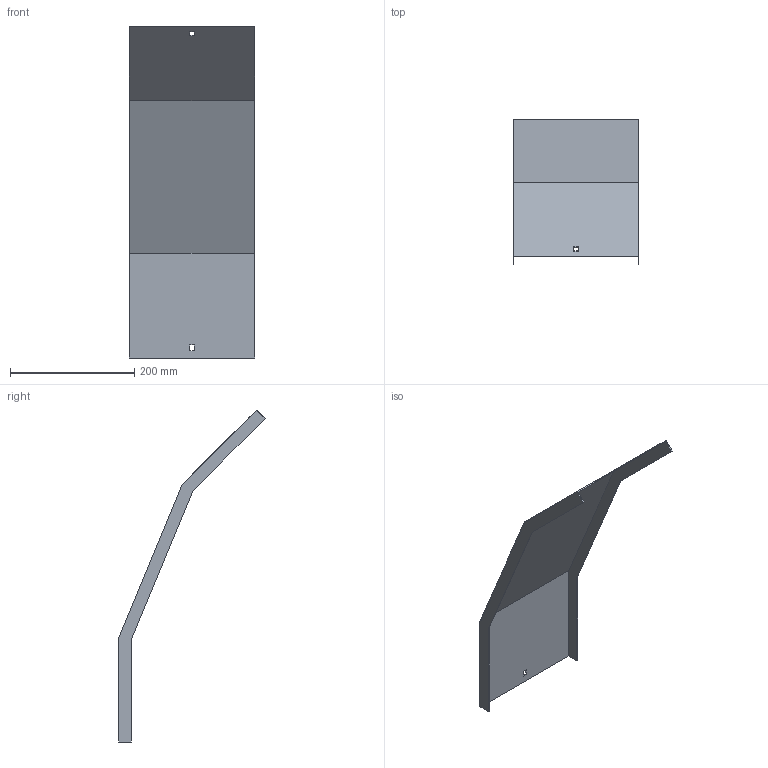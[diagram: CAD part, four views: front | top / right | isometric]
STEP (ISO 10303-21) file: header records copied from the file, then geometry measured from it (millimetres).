
FILE_DESCRIPTION (( 'STEP AP214' ), '1' );
FILE_NAME ('A2_34N3C200.step', '2025-02-21T10:34:11', ( '' ), ( '' ), 'SwSTEP 2.0', 'SolidWorks 2023', '' );
FILE_SCHEMA (( 'AUTOMOTIVE_DESIGN' ));
Length unit declared in the file: millimetre
Products named in the file (1): A2_34N3C200
Bounding box: 203 x 235.79 x 535.1 mm (x, y, z)
Volume: 216936.8 mm3; surface area: 291830.8 mm2
Topology: 1 solids, 1 shells, 26 faces, 72 edges, 48 vertices
Faces by surface type: plane 26
Entity records: 847 total; most frequent: CARTESIAN_POINT 147, ORIENTED_EDGE 144, DIRECTION 126, EDGE_CURVE 72, LINE 72, VECTOR 72, VERTEX_POINT 48, EDGE_LOOP 30
